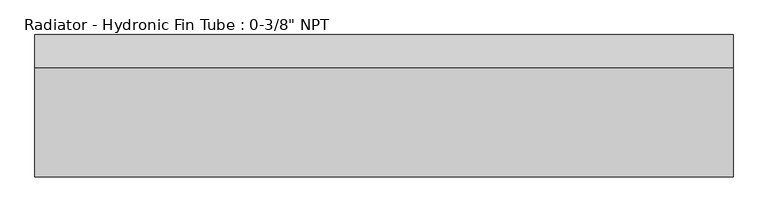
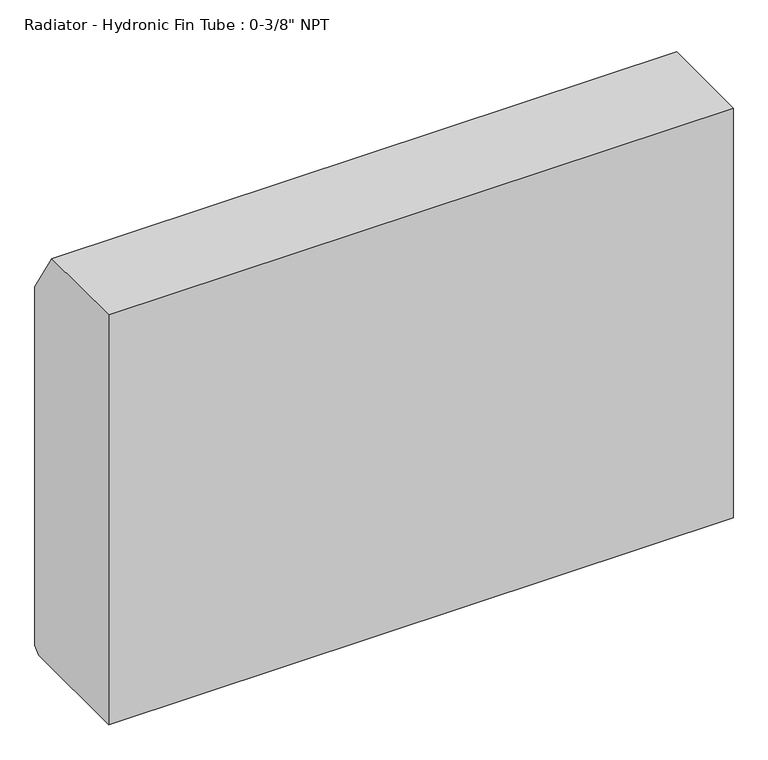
"""IFC4 building model written with IfcOpenShell, lengths in millimetres: proxy geometry."""

from ifc_helpers import new_model, si_unit, frame, origin, place, context, project, spatial, polyline, outline, extrude, source, transform, mapped, element, save


def proxy_5922f459(model_context):
    return source(origin(), model_context, "Body", "SweptSolid", [
        extrude(outline(polyline([(342.9, 304.8), (101.6, 304.8), (101.6, 1168.4), (296.8625, 1168.4), (355.6, 1074.0279261), (355.6, 318.3779261), (342.9, 304.8)])), frame((-914.4, 0.0, 0.0), z_axis=(1.0, 0.0, 0.0), x_axis=(0.0, 1.0, 0.0)), (0.0, 0.0, 1.0), 1244.6),
    ])


if __name__ == "__main__":
    model = new_model("IFC4")
    model_context = context("Model", 3, world=origin())
    ifc_project = project(units=[si_unit("LENGTHUNIT", "METRE", prefix="MILLI")], contexts=[model_context])
    site = spatial("IfcSite", under=ifc_project)
    building = spatial("IfcBuilding", under=site)
    placement = place(None, origin())
    proxy_shape = proxy_5922f459(model_context)
    element("IfcBuildingElementProxy", 1, Name="Radiator - Hydronic Fin Tube : 0-3/8\" NPT", ObjectType="Radiator - Hydronic Fin Tube : 0-3/8\" NPT", at=placement, inside=building, context=model_context, shape_type="MappedRepresentation", body=[
        mapped(proxy_shape, transform((0.0, 0.0, 0.0), x_axis=(1.0, 0.0, 0.0), y_axis=(0.0, 1.0, 0.0), z_axis=(0.0, 0.0, 1.0))),
    ])
    save(model, "model.ifc")
